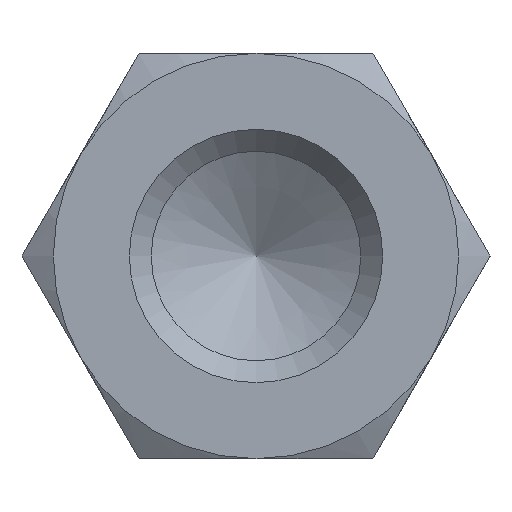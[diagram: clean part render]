
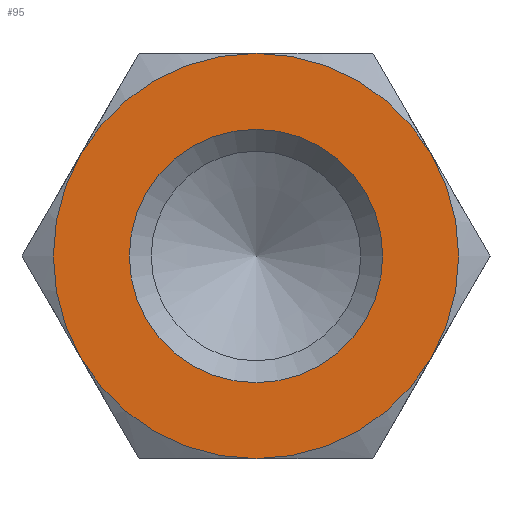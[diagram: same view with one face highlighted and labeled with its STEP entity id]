
A CAD part, left-side view. The second image highlights one B-rep face of the part: STEP entity #95.
In plain terms, the highlighted planar face has unit normal (-1, 0, 0).
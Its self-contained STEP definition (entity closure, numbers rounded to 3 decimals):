
#95 = ADVANCED_FACE( '', ( #147, #148 ), #149, .F. );
#147 = FACE_OUTER_BOUND( '', #206, .T. );
#148 = FACE_BOUND( '', #207, .T. );
#149 = PLANE( '', #208 );
#206 = EDGE_LOOP( '', ( #356, #357, #358, #359, #360, #361 ) );
#207 = EDGE_LOOP( '', ( #362 ) );
#208 = AXIS2_PLACEMENT_3D( '', #363, #364, #365 );
#356 = ORIENTED_EDGE( '', *, *, #440, .F. );
#357 = ORIENTED_EDGE( '', *, *, #425, .F. );
#358 = ORIENTED_EDGE( '', *, *, #441, .F. );
#359 = ORIENTED_EDGE( '', *, *, #437, .F. );
#360 = ORIENTED_EDGE( '', *, *, #442, .F. );
#361 = ORIENTED_EDGE( '', *, *, #443, .F. );
#362 = ORIENTED_EDGE( '', *, *, #439, .T. );
#363 = CARTESIAN_POINT( '', ( -15., 0., 0. ) );
#364 = DIRECTION( '', ( 1., 0., 0. ) );
#365 = DIRECTION( '', ( 0., 0., -1. ) );
#425 = EDGE_CURVE( '', #495, #493, #497, .T. );
#437 = EDGE_CURVE( '', #447, #506, #513, .T. );
#439 = EDGE_CURVE( '', #516, #516, #517, .T. );
#440 = EDGE_CURVE( '', #493, #486, #518, .T. );
#441 = EDGE_CURVE( '', #506, #495, #519, .T. );
#442 = EDGE_CURVE( '', #481, #447, #520, .T. );
#443 = EDGE_CURVE( '', #486, #481, #521, .T. );
#447 = VERTEX_POINT( '', #525 );
#481 = VERTEX_POINT( '', #595 );
#486 = VERTEX_POINT( '', #611 );
#493 = VERTEX_POINT( '', #632 );
#495 = VERTEX_POINT( '', #637 );
#497 = CIRCLE( '', #644, 4. );
#506 = VERTEX_POINT( '', #670 );
#513 = CIRCLE( '', #701, 4. );
#516 = VERTEX_POINT( '', #704 );
#517 = CIRCLE( '', #705, 2.5 );
#518 = CIRCLE( '', #706, 4. );
#519 = CIRCLE( '', #707, 4. );
#520 = CIRCLE( '', #708, 4. );
#521 = CIRCLE( '', #709, 4. );
#525 = CARTESIAN_POINT( '', ( -15., -3.464, 2. ) );
#595 = CARTESIAN_POINT( '', ( -15., 0., 4. ) );
#611 = CARTESIAN_POINT( '', ( -15., 3.464, 2. ) );
#632 = CARTESIAN_POINT( '', ( -15., 3.464, -2. ) );
#637 = CARTESIAN_POINT( '', ( -15., 0., -4. ) );
#644 = AXIS2_PLACEMENT_3D( '', #744, #745, #746 );
#670 = CARTESIAN_POINT( '', ( -15., -3.464, -2. ) );
#701 = AXIS2_PLACEMENT_3D( '', #749, #750, #751 );
#704 = CARTESIAN_POINT( '', ( -15., 0., -2.5 ) );
#705 = AXIS2_PLACEMENT_3D( '', #755, #756, #757 );
#706 = AXIS2_PLACEMENT_3D( '', #758, #759, #760 );
#707 = AXIS2_PLACEMENT_3D( '', #761, #762, #763 );
#708 = AXIS2_PLACEMENT_3D( '', #764, #765, #766 );
#709 = AXIS2_PLACEMENT_3D( '', #767, #768, #769 );
#744 = CARTESIAN_POINT( '', ( -15., 0., 0. ) );
#745 = DIRECTION( '', ( 1., 0., 0. ) );
#746 = DIRECTION( '', ( 0., 0., -1. ) );
#749 = CARTESIAN_POINT( '', ( -15., 0., 0. ) );
#750 = DIRECTION( '', ( 1., 0., 0. ) );
#751 = DIRECTION( '', ( 0., 0., -1. ) );
#755 = CARTESIAN_POINT( '', ( -15., 0., 0. ) );
#756 = DIRECTION( '', ( 1., 0., 0. ) );
#757 = DIRECTION( '', ( 0., 0., -1. ) );
#758 = CARTESIAN_POINT( '', ( -15., 0., 0. ) );
#759 = DIRECTION( '', ( 1., 0., 0. ) );
#760 = DIRECTION( '', ( 0., 0., -1. ) );
#761 = CARTESIAN_POINT( '', ( -15., 0., 0. ) );
#762 = DIRECTION( '', ( 1., 0., 0. ) );
#763 = DIRECTION( '', ( 0., 0., -1. ) );
#764 = CARTESIAN_POINT( '', ( -15., 0., 0. ) );
#765 = DIRECTION( '', ( 1., 0., 0. ) );
#766 = DIRECTION( '', ( 0., 0., -1. ) );
#767 = CARTESIAN_POINT( '', ( -15., 0., 0. ) );
#768 = DIRECTION( '', ( 1., 0., 0. ) );
#769 = DIRECTION( '', ( 0., 0., -1. ) );
